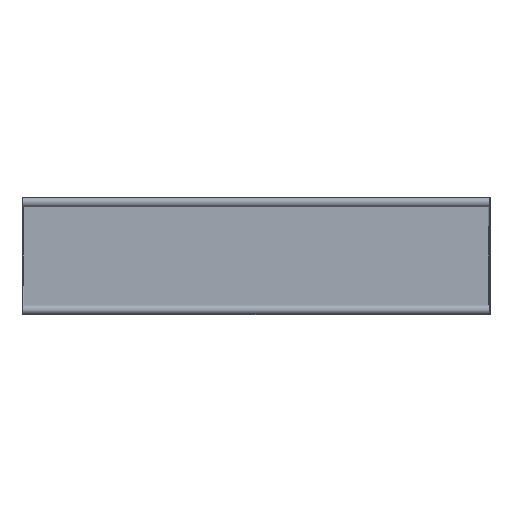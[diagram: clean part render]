
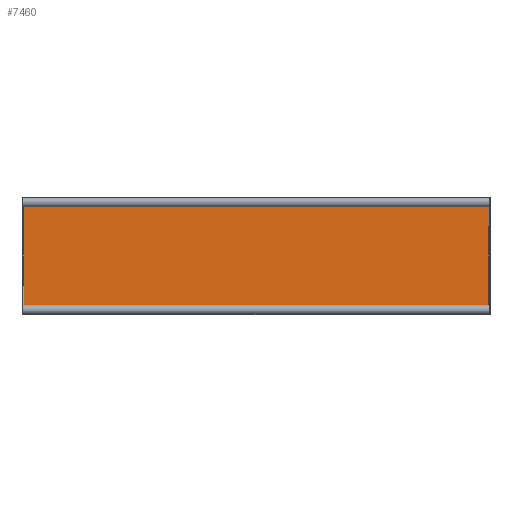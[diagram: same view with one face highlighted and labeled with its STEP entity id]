
A CAD part, front view. The second image highlights one B-rep face of the part: STEP entity #7460.
In plain terms, the highlighted planar face has unit normal (0, -1, 0).
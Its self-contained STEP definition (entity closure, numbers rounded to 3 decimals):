
#26 = EDGE_CURVE ( 'NONE', #8483, #5285, #6392, .T. ) ;
#271 = ORIENTED_EDGE ( 'NONE', *, *, #6025, .F. ) ;
#349 = ORIENTED_EDGE ( 'NONE', *, *, #2666, .F. ) ;
#405 = CARTESIAN_POINT ( 'NONE',  ( 496., -2., -124. ) ) ;
#749 = CARTESIAN_POINT ( 'NONE',  ( -495., -2., 121. ) ) ;
#1064 = VERTEX_POINT ( 'NONE', #9378 ) ;
#1160 = DIRECTION ( 'NONE',  ( 0., -1., 0. ) ) ;
#1264 = CARTESIAN_POINT ( 'NONE',  ( 499., -2., -124. ) ) ;
#1606 = VECTOR ( 'NONE', #5455, 1000. ) ;
#1799 = VECTOR ( 'NONE', #9411, 1000. ) ;
#1937 = DIRECTION ( 'NONE',  ( 0., -1., 0. ) ) ;
#1971 = ORIENTED_EDGE ( 'NONE', *, *, #4144, .F. ) ;
#2007 = ORIENTED_EDGE ( 'NONE', *, *, #8876, .F. ) ;
#2023 = DIRECTION ( 'NONE',  ( 0., 0., 1. ) ) ;
#2046 = DIRECTION ( 'NONE',  ( 0., 0., 1. ) ) ;
#2070 = PLANE ( 'NONE',  #8053 ) ;
#2666 = EDGE_CURVE ( 'NONE', #5285, #3342, #3209, .T. ) ;
#2975 = VECTOR ( 'NONE', #4212, 1000. ) ;
#3126 = CIRCLE ( 'NONE', #5670, 5. ) ;
#3157 = EDGE_LOOP ( 'NONE', ( #9338, #9362, #271, #1971, #2007, #349, #7008, #9148 ) ) ;
#3169 = CARTESIAN_POINT ( 'NONE',  ( 495., -2., 121. ) ) ;
#3209 = LINE ( 'NONE', #6315, #1606 ) ;
#3232 = CARTESIAN_POINT ( 'NONE',  ( -499., -2., 121. ) ) ;
#3342 = VERTEX_POINT ( 'NONE', #8531 ) ;
#3460 = DIRECTION ( 'NONE',  ( 0., 0., 1. ) ) ;
#3565 = CIRCLE ( 'NONE', #8689, 5. ) ;
#4144 = EDGE_CURVE ( 'NONE', #5793, #9898, #5583, .T. ) ;
#4156 = LINE ( 'NONE', #8002, #2975 ) ;
#4180 = CARTESIAN_POINT ( 'NONE',  ( -496., -2., -120. ) ) ;
#4206 = DIRECTION ( 'NONE',  ( 0., -1., 0. ) ) ;
#4212 = DIRECTION ( 'NONE',  ( 1., 0., 0. ) ) ;
#4382 = EDGE_CURVE ( 'NONE', #8885, #9437, #8839, .T. ) ;
#4985 = DIRECTION ( 'NONE',  ( 0., 0., 1. ) ) ;
#5060 = CARTESIAN_POINT ( 'NONE',  ( 496., -2., -120. ) ) ;
#5108 = AXIS2_PLACEMENT_3D ( 'NONE', #8783, #7204, #2023 ) ;
#5285 = VERTEX_POINT ( 'NONE', #4180 ) ;
#5455 = DIRECTION ( 'NONE',  ( 0., 0., 1. ) ) ;
#5478 = VECTOR ( 'NONE', #3460, 1000. ) ;
#5583 = LINE ( 'NONE', #3232, #1799 ) ;
#5670 = AXIS2_PLACEMENT_3D ( 'NONE', #6469, #4206, #7994 ) ;
#5793 = VERTEX_POINT ( 'NONE', #749 ) ;
#6025 = EDGE_CURVE ( 'NONE', #9898, #9437, #9475, .T. ) ;
#6315 = CARTESIAN_POINT ( 'NONE',  ( -496., -2., -124. ) ) ;
#6392 = CIRCLE ( 'NONE', #5108, 5. ) ;
#6444 = EDGE_CURVE ( 'NONE', #8483, #1064, #4156, .T. ) ;
#6461 = AXIS2_PLACEMENT_3D ( 'NONE', #9612, #1937, #4985 ) ;
#6469 = CARTESIAN_POINT ( 'NONE',  ( -499., -2., 124. ) ) ;
#6729 = CARTESIAN_POINT ( 'NONE',  ( 496., -2., 120. ) ) ;
#6777 = CARTESIAN_POINT ( 'NONE',  ( -499., -2., -124. ) ) ;
#7008 = ORIENTED_EDGE ( 'NONE', *, *, #26, .F. ) ;
#7113 = EDGE_CURVE ( 'NONE', #8885, #1064, #3565, .T. ) ;
#7204 = DIRECTION ( 'NONE',  ( 0., -1., 0. ) ) ;
#7460 = ADVANCED_FACE ( 'NONE', ( #9643 ), #2070, .F. ) ;
#7478 = CARTESIAN_POINT ( 'NONE',  ( -495., -2., -121. ) ) ;
#7994 = DIRECTION ( 'NONE',  ( 0., 0., 1. ) ) ;
#8002 = CARTESIAN_POINT ( 'NONE',  ( -499., -2., -121. ) ) ;
#8053 = AXIS2_PLACEMENT_3D ( 'NONE', #6777, #8953, #8845 ) ;
#8483 = VERTEX_POINT ( 'NONE', #7478 ) ;
#8531 = CARTESIAN_POINT ( 'NONE',  ( -496., -2., 120. ) ) ;
#8689 = AXIS2_PLACEMENT_3D ( 'NONE', #1264, #1160, #2046 ) ;
#8783 = CARTESIAN_POINT ( 'NONE',  ( -499., -2., -124. ) ) ;
#8839 = LINE ( 'NONE', #405, #5478 ) ;
#8845 = DIRECTION ( 'NONE',  ( 0., 0., 1. ) ) ;
#8876 = EDGE_CURVE ( 'NONE', #3342, #5793, #3126, .T. ) ;
#8885 = VERTEX_POINT ( 'NONE', #5060 ) ;
#8953 = DIRECTION ( 'NONE',  ( 0., 1., 0. ) ) ;
#9148 = ORIENTED_EDGE ( 'NONE', *, *, #6444, .T. ) ;
#9338 = ORIENTED_EDGE ( 'NONE', *, *, #7113, .F. ) ;
#9362 = ORIENTED_EDGE ( 'NONE', *, *, #4382, .T. ) ;
#9378 = CARTESIAN_POINT ( 'NONE',  ( 495., -2., -121. ) ) ;
#9411 = DIRECTION ( 'NONE',  ( 1., 0., 0. ) ) ;
#9437 = VERTEX_POINT ( 'NONE', #6729 ) ;
#9475 = CIRCLE ( 'NONE', #6461, 5. ) ;
#9612 = CARTESIAN_POINT ( 'NONE',  ( 499., -2., 124. ) ) ;
#9643 = FACE_OUTER_BOUND ( 'NONE', #3157, .T. ) ;
#9898 = VERTEX_POINT ( 'NONE', #3169 ) ;
